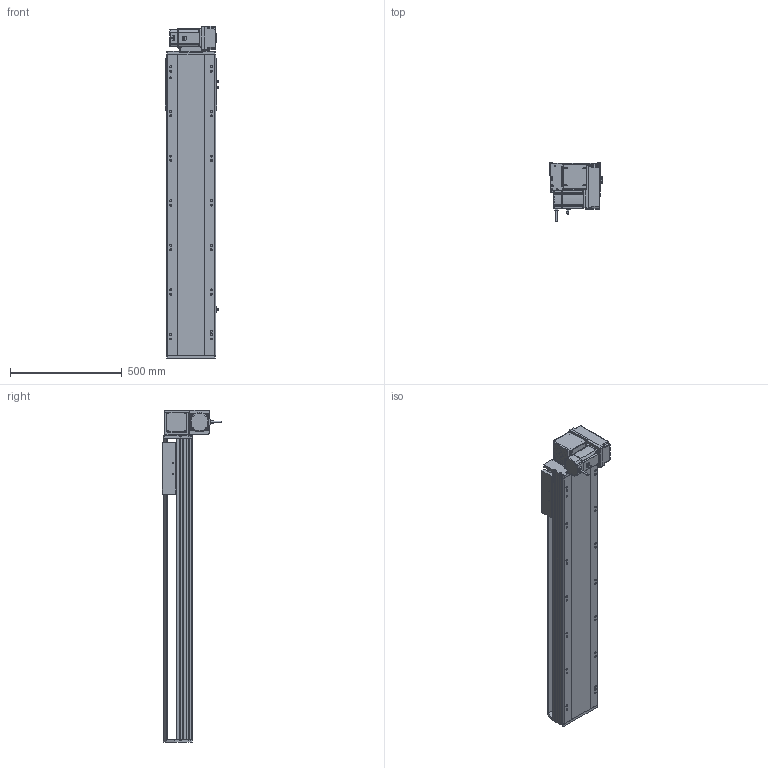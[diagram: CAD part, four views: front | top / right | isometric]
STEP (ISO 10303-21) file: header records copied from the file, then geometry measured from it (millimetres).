
FILE_DESCRIPTION (( 'STEP AP214' ), '1' );
FILE_NAME ('RTB22S-XX-1000-RM-M75-C4.STEP', '2025-12-12T07:47:00', ( '' ), ( '' ), 'SwSTEP 2.0', 'SolidWorks 2018', '' );
FILE_SCHEMA (( 'AUTOMOTIVE_DESIGN' ));
Length unit declared in the file: millimetre
Products named in the file (14): 750W萇儂^RTB22S-XX-XX-RM-M75-C4; OMRON EE-SX672 传感器^RTB22S-XX-XX-RM-M75-C4; RTB22S-GY-001耜裔^RTB22S-XX-XX-RM-M75-C4; RTH22-GY-013外置感应片^RTB22S-XX-XX-RM-M75-C4; RTB22S-L-004賑釱^RTB22S-XX-XX-RM-M75-C4; RTB22S-L-011菁釱^RTB22S-XX-XX-RM-M75-C4; RTB22S-XX-1000-RM-M75-C4; RTB22S-GY-018P^RTB22S-RM-々湍釱蚾饜_RTB22S-XX-XX-RM-M75-C4; RTB22S-GY-007奻裔^RTB22S-XX-XX-RM-M75-C4; RTB22S-GY-017P^RTB22S-RM-々湍釱蚾饜_RTB22S-XX-XX-RM-M75-C4; RTB22S-GY-014--々湍釱^RTB22S-RM-々湍釱蚾饜_RTB22S-XX-XX-RM-M75-C4; RTB22S-GY-008-M75--萇儂啣^RTB22S-RM-々湍釱蚾饜_RTB22S-XX-XX-RM-M75-C4; RTB22S-GY-005P^RTB22S-RM-々湍釱蚾饜_RTB22S-XX-XX-RM-M75-C4; RTB22S-RM-々湍釱蚾饜^RTB22S-XX-XX-RM-M75-C4
Assembly tree (16 placements, depth 3):
  RTB22S-XX-1000-RM-M75-C4
    RTB22S-L-011菁釱^RTB22S-XX-XX-RM-M75-C4
    RTB22S-GY-001耜裔^RTB22S-XX-XX-RM-M75-C4
    750W萇儂^RTB22S-XX-XX-RM-M75-C4
    RTB22S-GY-007奻裔^RTB22S-XX-XX-RM-M75-C4
    RTB22S-L-004賑釱^RTB22S-XX-XX-RM-M75-C4
    RTH22-GY-013外置感应片^RTB22S-XX-XX-RM-M75-C4
    OMRON EE-SX672 传感器^RTB22S-XX-XX-RM-M75-C4  x3
    RTB22S-RM-々湍釱蚾饜^RTB22S-XX-XX-RM-M75-C4
      RTB22S-GY-014--々湍釱^RTB22S-RM-々湍釱蚾饜_RTB22S-XX-XX-RM-M75-C4
      RTB22S-GY-017P^RTB22S-RM-々湍釱蚾饜_RTB22S-XX-XX-RM-M75-C4  x2
      RTB22S-GY-005P^RTB22S-RM-々湍釱蚾饜_RTB22S-XX-XX-RM-M75-C4
      RTB22S-GY-008-M75--萇儂啣^RTB22S-RM-々湍釱蚾饜_RTB22S-XX-XX-RM-M75-C4
      RTB22S-GY-018P^RTB22S-RM-々湍釱蚾饜_RTB22S-XX-XX-RM-M75-C4
Bounding box: 238.5 x 264.7 x 1487.5 mm (x, y, z)
Volume: 21293109.5 mm3; surface area: 2215109.2 mm2
Topology: 15 solids, 15 shells, 1965 faces, 5336 edges, 3422 vertices
Faces by surface type: plane 913, cylinder 610, bspline 296, cone 134, sphere 8, torus 4
Entity records: 52110 total; most frequent: CARTESIAN_POINT 15024, ORIENTED_EDGE 7468, DIRECTION 7168, EDGE_CURVE 3734, AXIS2_PLACEMENT_3D 2522, VERTEX_POINT 2426, VECTOR 2124, LINE 2124
